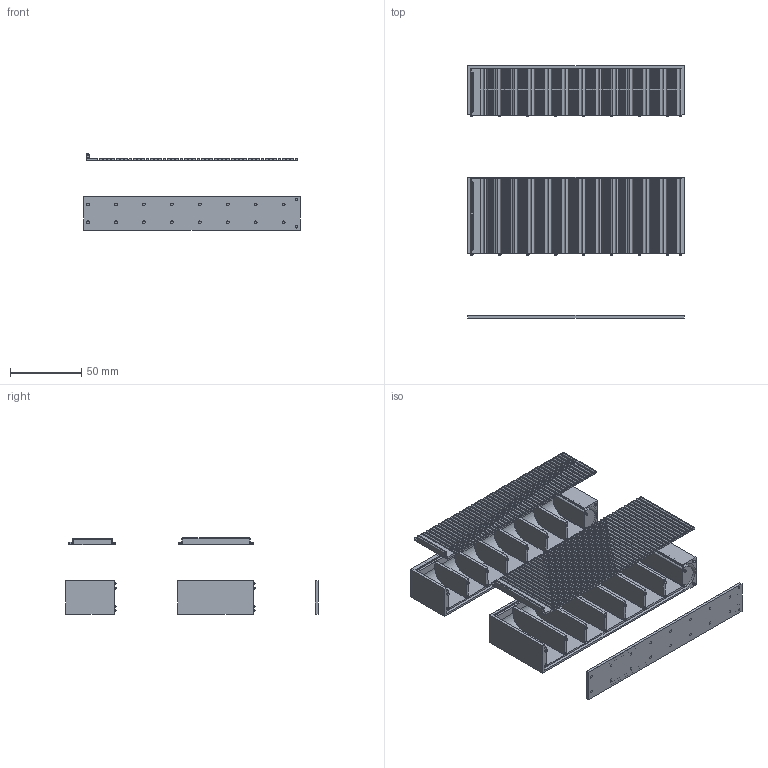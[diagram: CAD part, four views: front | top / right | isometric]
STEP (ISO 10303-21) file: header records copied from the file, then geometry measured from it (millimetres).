
FILE_DESCRIPTION(/* description */ (''),/* implementation_level */ '2;1');
FILE_NAME(/* name */ '/Users/collinsbrn/Desktop/Fusion Files/PillboxesV3.step',/* time_stamp */ '2022-09-21T15:43:04-07:00',/* author */ (''),/* organization */ (''),/* preprocessor_version */ 'ST-DEVELOPER v19',/* originating_system */ 'Autodesk Translation Framework v11.7.0.108',/* authorisation */ '');
FILE_SCHEMA (('AUTOMOTIVE_DESIGN { 1 0 10303 214 3 1 1 }'));
Length unit declared in the file: millimetre
Products named in the file (6): PillboxV3; WidePillboxBody (1); WideRolltop; Pillbox Side; Smallrolltop v4; SmallPillboxBody
Assembly tree (5 placements, depth 2):
  PillboxV3
    WidePillboxBody (1)
    WideRolltop
    Pillbox Side
    Smallrolltop v4
    SmallPillboxBody
Bounding box: 151.75 x 176.75 x 53.45 mm (x, y, z)
Volume: 116104.6 mm3; surface area: 136133.9 mm2
Topology: 5 solids, 5 shells, 887 faces, 2406 edges, 1582 vertices
Faces by surface type: plane 555, cylinder 288, cone 36, sphere 4, bspline 4
Full cylindrical faces by diameter (mm): 1.727 x36, 1.927 x18
Entity records: 28082 total; most frequent: CARTESIAN_POINT 4958, ORIENTED_EDGE 4808, DIRECTION 4804, EDGE_CURVE 2404, LINE 1792, VECTOR 1792, VERTEX_POINT 1582, AXIS2_PLACEMENT_3D 1506
